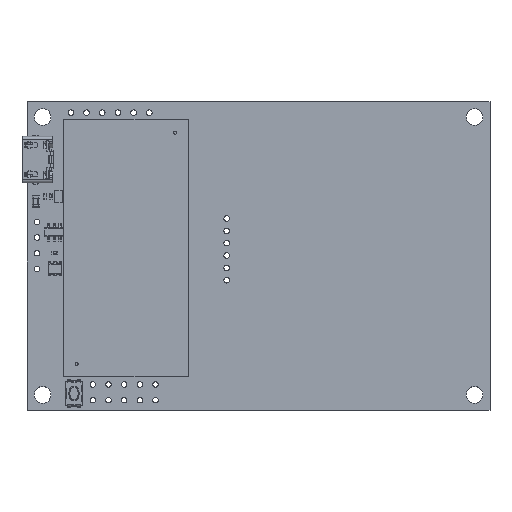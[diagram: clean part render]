
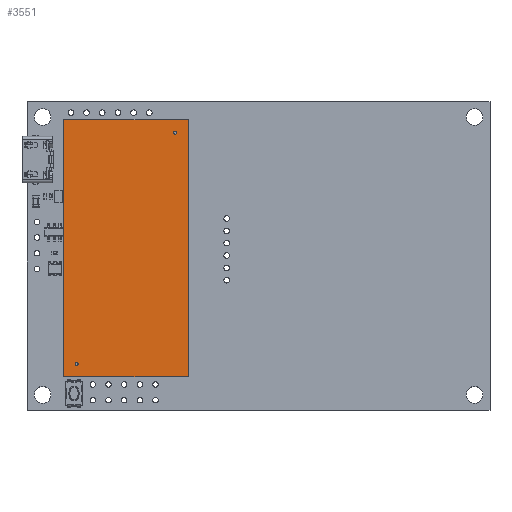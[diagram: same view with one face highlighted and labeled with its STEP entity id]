
A CAD part, top view. The second image highlights one B-rep face of the part: STEP entity #3551.
In plain terms, the highlighted planar face has unit normal (0, 0, 1).
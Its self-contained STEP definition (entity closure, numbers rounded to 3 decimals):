
#2935 = VERTEX_POINT('',#2936);
#2936 = CARTESIAN_POINT('',(-0.2,-0.2,2.));
#2942 = EDGE_CURVE('',#2935,#2943,#2945,.T.);
#2943 = VERTEX_POINT('',#2944);
#2944 = CARTESIAN_POINT('',(-0.2,41.5,2.));
#2945 = LINE('',#2946,#2947);
#2946 = CARTESIAN_POINT('',(-0.2,-0.2,2.));
#2947 = VECTOR('',#2948,1.);
#2948 = DIRECTION('',(0.,1.,0.));
#3039 = VERTEX_POINT('',#3040);
#3040 = CARTESIAN_POINT('',(20.,-0.2,2.));
#3046 = EDGE_CURVE('',#3039,#2935,#3047,.T.);
#3047 = LINE('',#3048,#3049);
#3048 = CARTESIAN_POINT('',(20.,-0.2,2.));
#3049 = VECTOR('',#3050,1.);
#3050 = DIRECTION('',(-1.,0.,0.));
#3068 = EDGE_CURVE('',#2943,#3069,#3071,.T.);
#3069 = VERTEX_POINT('',#3070);
#3070 = CARTESIAN_POINT('',(20.,41.5,2.));
#3071 = LINE('',#3072,#3073);
#3072 = CARTESIAN_POINT('',(-0.2,41.5,2.));
#3073 = VECTOR('',#3074,1.);
#3074 = DIRECTION('',(1.,0.,0.));
#3551 = ADVANCED_FACE('',(#3552,#3563,#3574),#3585,.T.);
#3552 = FACE_BOUND('',#3553,.T.);
#3553 = EDGE_LOOP('',(#3554,#3555,#3556,#3562));
#3554 = ORIENTED_EDGE('',*,*,#2942,.F.);
#3555 = ORIENTED_EDGE('',*,*,#3046,.F.);
#3556 = ORIENTED_EDGE('',*,*,#3557,.F.);
#3557 = EDGE_CURVE('',#3069,#3039,#3558,.T.);
#3558 = LINE('',#3559,#3560);
#3559 = CARTESIAN_POINT('',(20.,41.5,2.));
#3560 = VECTOR('',#3561,1.);
#3561 = DIRECTION('',(0.,-1.,0.));
#3562 = ORIENTED_EDGE('',*,*,#3068,.F.);
#3563 = FACE_BOUND('',#3564,.T.);
#3564 = EDGE_LOOP('',(#3565));
#3565 = ORIENTED_EDGE('',*,*,#3566,.F.);
#3566 = EDGE_CURVE('',#3567,#3567,#3569,.T.);
#3567 = VERTEX_POINT('',#3568);
#3568 = CARTESIAN_POINT('',(2.15,1.9,2.));
#3569 = CIRCLE('',#3570,0.25);
#3570 = AXIS2_PLACEMENT_3D('',#3571,#3572,#3573);
#3571 = CARTESIAN_POINT('',(1.9,1.9,2.));
#3572 = DIRECTION('',(0.,0.,1.));
#3573 = DIRECTION('',(1.,0.,0.));
#3574 = FACE_BOUND('',#3575,.T.);
#3575 = EDGE_LOOP('',(#3576));
#3576 = ORIENTED_EDGE('',*,*,#3577,.F.);
#3577 = EDGE_CURVE('',#3578,#3578,#3580,.T.);
#3578 = VERTEX_POINT('',#3579);
#3579 = CARTESIAN_POINT('',(18.15,39.4,2.));
#3580 = CIRCLE('',#3581,0.25);
#3581 = AXIS2_PLACEMENT_3D('',#3582,#3583,#3584);
#3582 = CARTESIAN_POINT('',(17.9,39.4,2.));
#3583 = DIRECTION('',(0.,0.,1.));
#3584 = DIRECTION('',(1.,0.,0.));
#3585 = PLANE('',#3586);
#3586 = AXIS2_PLACEMENT_3D('',#3587,#3588,#3589);
#3587 = CARTESIAN_POINT('',(9.9,20.65,2.));
#3588 = DIRECTION('',(0.,0.,1.));
#3589 = DIRECTION('',(1.,0.,0.));
